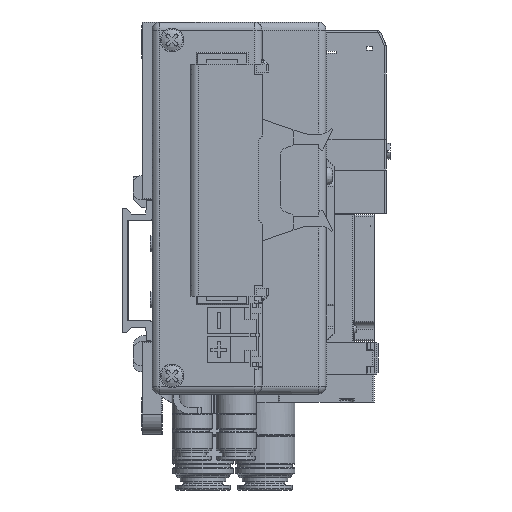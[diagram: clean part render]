
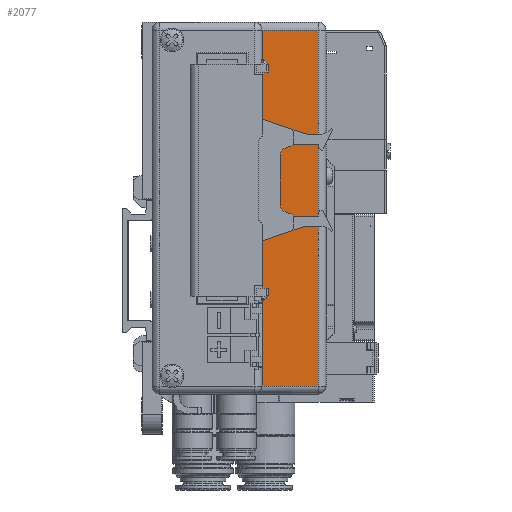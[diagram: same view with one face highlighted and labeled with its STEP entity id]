
A CAD part, left-side view. The second image highlights one B-rep face of the part: STEP entity #2077.
In plain terms, the highlighted planar face has unit normal (-1, 0, 0).
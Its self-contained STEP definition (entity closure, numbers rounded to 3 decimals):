
#2077=ADVANCED_FACE('',(#15085),#15084,.F.);
#15084=PLANE('',#32174);
#15085=FACE_OUTER_BOUND('',#32175,.T.);
#32171=CARTESIAN_POINT('',(20.,-50.4,69.1));
#32172=DIRECTION('',(1.,0.,0.));
#32173=DIRECTION('',(0.,0.,-1.));
#32174=AXIS2_PLACEMENT_3D('',#32171,#32172,#32173);
#32175=EDGE_LOOP('',(#43493,#43494,#43495,#43496));
#43493=ORIENTED_EDGE('',*,*,#51064,.T.);
#43494=ORIENTED_EDGE('',*,*,#51188,.T.);
#43495=ORIENTED_EDGE('',*,*,#51197,.T.);
#43496=ORIENTED_EDGE('',*,*,#51200,.T.);
#51064=EDGE_CURVE('',#70068,#70061,#70069,.T.);
#51188=EDGE_CURVE('',#70061,#70919,#70926,.T.);
#51197=EDGE_CURVE('',#70919,#70978,#70985,.T.);
#51200=EDGE_CURVE('',#70978,#70068,#71003,.T.);
#70061=VERTEX_POINT('',#102042);
#70068=VERTEX_POINT('',#102046);
#70069=LINE('',#102047,#102048);
#70919=VERTEX_POINT('',#102555);
#70926=LINE('',#102560,#102561);
#70978=VERTEX_POINT('',#102590);
#70985=LINE('',#102595,#102596);
#71003=LINE('',#102606,#102607);
#102042=CARTESIAN_POINT('',(20.,-35.,-28.8));
#102046=CARTESIAN_POINT('',(20.,-35.,60.2));
#102047=CARTESIAN_POINT('',(20.,-35.,60.2));
#102048=VECTOR('',#102049,89.);
#102049=DIRECTION('',(0.,0.,-1.));
#102555=CARTESIAN_POINT('',(20.,-49.,-28.8));
#102560=CARTESIAN_POINT('',(20.,-35.,-28.8));
#102561=VECTOR('',#102562,14.);
#102562=DIRECTION('',(0.,-1.,0.));
#102590=CARTESIAN_POINT('',(20.,-49.,60.2));
#102595=CARTESIAN_POINT('',(20.,-49.,-28.8));
#102596=VECTOR('',#102597,89.);
#102597=DIRECTION('',(0.,0.,1.));
#102606=CARTESIAN_POINT('',(20.,-49.,60.2));
#102607=VECTOR('',#102608,14.);
#102608=DIRECTION('',(0.,1.,0.));
